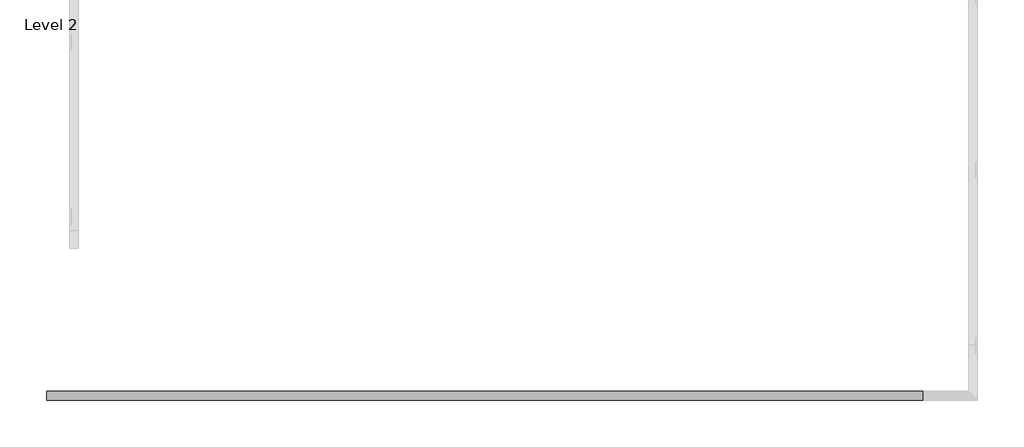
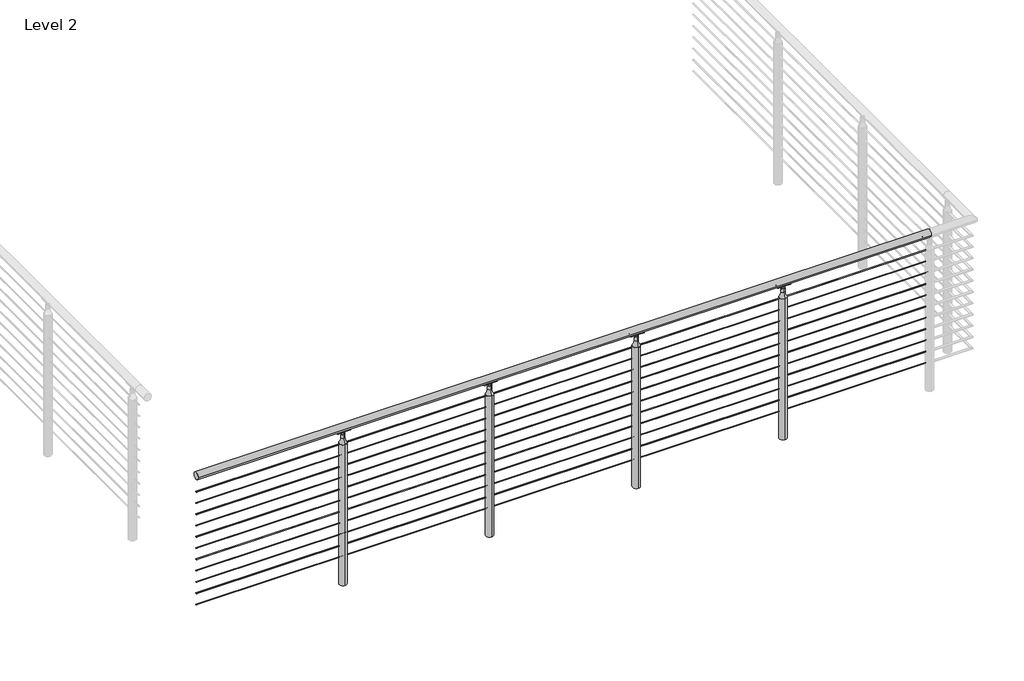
# One storey, part 14 of 21: 1 railing.
"""IFC4 building model written with IfcOpenShell, lengths in millimetres."""

from ifc_helpers import new_model, si_unit, point, frame, frame_2d, origin, place, context, project, spatial, polyline, circle_curve, ellipse_curve, trimmed, segment, composite_curve, outline, extrude, element, save
from ifc_brep_helpers import plane_surface, cylinder_surface, revolved_surface, advanced_brep

model = new_model("IFC4")

# Units and contexts
model_context = context("Model", 3, world=origin())
ifc_project = project(units=[si_unit("LENGTHUNIT", "METRE", prefix="MILLI")], contexts=[model_context])

# Site, building, storey
site = spatial("IfcSite", under=ifc_project)
building = spatial("IfcBuilding", under=site)
storey = spatial("IfcBuildingStorey", under=building, Name="Level 2", Elevation=3048.0)

# Railing
placement = place(None, origin())
element("IfcRailing", 1, ObjectType="VIVA-CIRCA-Cable-Weld Mount-Straight", at=placement, inside=storey, context=model_context, shape_type="SolidModel", body=[
    extrude(outline(composite_curve([segment(trimmed(circle_curve(frame_2d((-52219.0426165, 4102.1)), 25.4), [point((-52244.4426165, 4102.1))], [point((-52193.6426165, 4102.1))], False, "CARTESIAN"), True, "CONTINUOUS"), segment(trimmed(circle_curve(frame_2d((-52219.0426165, 4102.1)), 25.4), [point((-52193.6426165, 4102.1))], [point((-52244.4426165, 4102.1))], False, "CARTESIAN"), True, "CONTINUOUS")], self_intersect=False)), frame((41046.2072927, 0.0, 0.0), z_axis=(1.0, 0.0, 0.0), x_axis=(0.0, 1.0, 0.0)), (0.0, 0.0, 1.0), 5080.0),
    extrude(outline(composite_curve([segment(trimmed(circle_curve(frame_2d((-52219.0426165, 3985.4124)), 2.3876), [point((-52216.6550165, 3985.4124))], [point((-52221.4302165, 3985.4124))], False, "CARTESIAN"), True, "CONTINUOUS"), segment(trimmed(circle_curve(frame_2d((-52219.0426165, 3985.4124)), 2.3876), [point((-52221.4302165, 3985.4124))], [point((-52216.6550165, 3985.4124))], False, "CARTESIAN"), True, "CONTINUOUS")], self_intersect=False)), frame((41046.2072927, 0.0, 0.0), z_axis=(1.0, 0.0, 0.0), x_axis=(0.0, 1.0, 0.0)), (0.0, 0.0, 1.0), 5080.0),
    extrude(outline(composite_curve([segment(trimmed(circle_curve(frame_2d((-52219.0426165, 3902.8624)), 2.3876), [point((-52216.6550165, 3902.8624))], [point((-52221.4302165, 3902.8624))], False, "CARTESIAN"), True, "CONTINUOUS"), segment(trimmed(circle_curve(frame_2d((-52219.0426165, 3902.8624)), 2.3876), [point((-52221.4302165, 3902.8624))], [point((-52216.6550165, 3902.8624))], False, "CARTESIAN"), True, "CONTINUOUS")], self_intersect=False)), frame((41046.2072927, 0.0, 0.0), z_axis=(1.0, 0.0, 0.0), x_axis=(0.0, 1.0, 0.0)), (0.0, 0.0, 1.0), 5080.0),
    extrude(outline(composite_curve([segment(trimmed(circle_curve(frame_2d((-52219.0426165, 3820.3124)), 2.3876), [point((-52216.6550165, 3820.3124))], [point((-52221.4302165, 3820.3124))], False, "CARTESIAN"), True, "CONTINUOUS"), segment(trimmed(circle_curve(frame_2d((-52219.0426165, 3820.3124)), 2.3876), [point((-52221.4302165, 3820.3124))], [point((-52216.6550165, 3820.3124))], False, "CARTESIAN"), True, "CONTINUOUS")], self_intersect=False)), frame((41046.2072927, 0.0, 0.0), z_axis=(1.0, 0.0, 0.0), x_axis=(0.0, 1.0, 0.0)), (0.0, 0.0, 1.0), 5080.0),
    extrude(outline(composite_curve([segment(trimmed(circle_curve(frame_2d((-52219.0426165, 3737.7624)), 2.3876), [point((-52216.6550165, 3737.7624))], [point((-52221.4302165, 3737.7624))], False, "CARTESIAN"), True, "CONTINUOUS"), segment(trimmed(circle_curve(frame_2d((-52219.0426165, 3737.7624)), 2.3876), [point((-52221.4302165, 3737.7624))], [point((-52216.6550165, 3737.7624))], False, "CARTESIAN"), True, "CONTINUOUS")], self_intersect=False)), frame((41046.2072927, 0.0, 0.0), z_axis=(1.0, 0.0, 0.0), x_axis=(0.0, 1.0, 0.0)), (0.0, 0.0, 1.0), 5080.0),
    extrude(outline(composite_curve([segment(trimmed(circle_curve(frame_2d((-52219.0426165, 3655.2124)), 2.3876), [point((-52216.6550165, 3655.2124))], [point((-52221.4302165, 3655.2124))], False, "CARTESIAN"), True, "CONTINUOUS"), segment(trimmed(circle_curve(frame_2d((-52219.0426165, 3655.2124)), 2.3876), [point((-52221.4302165, 3655.2124))], [point((-52216.6550165, 3655.2124))], False, "CARTESIAN"), True, "CONTINUOUS")], self_intersect=False)), frame((41046.2072927, 0.0, 0.0), z_axis=(1.0, 0.0, 0.0), x_axis=(0.0, 1.0, 0.0)), (0.0, 0.0, 1.0), 5080.0),
    extrude(outline(composite_curve([segment(trimmed(circle_curve(frame_2d((-52219.0426165, 3572.6624)), 2.3876), [point((-52216.6550165, 3572.6624))], [point((-52221.4302165, 3572.6624))], False, "CARTESIAN"), True, "CONTINUOUS"), segment(trimmed(circle_curve(frame_2d((-52219.0426165, 3572.6624)), 2.3876), [point((-52221.4302165, 3572.6624))], [point((-52216.6550165, 3572.6624))], False, "CARTESIAN"), True, "CONTINUOUS")], self_intersect=False)), frame((41046.2072927, 0.0, 0.0), z_axis=(1.0, 0.0, 0.0), x_axis=(0.0, 1.0, 0.0)), (0.0, 0.0, 1.0), 5080.0),
    extrude(outline(composite_curve([segment(trimmed(circle_curve(frame_2d((-52219.0426165, 3490.1124)), 2.3876), [point((-52216.6550165, 3490.1124))], [point((-52221.4302165, 3490.1124))], False, "CARTESIAN"), True, "CONTINUOUS"), segment(trimmed(circle_curve(frame_2d((-52219.0426165, 3490.1124)), 2.3876), [point((-52221.4302165, 3490.1124))], [point((-52216.6550165, 3490.1124))], False, "CARTESIAN"), True, "CONTINUOUS")], self_intersect=False)), frame((41046.2072927, 0.0, 0.0), z_axis=(1.0, 0.0, 0.0), x_axis=(0.0, 1.0, 0.0)), (0.0, 0.0, 1.0), 5080.0),
    extrude(outline(composite_curve([segment(trimmed(circle_curve(frame_2d((-52219.0426165, 3407.5624)), 2.3876), [point((-52216.6550165, 3407.5624))], [point((-52221.4302165, 3407.5624))], False, "CARTESIAN"), True, "CONTINUOUS"), segment(trimmed(circle_curve(frame_2d((-52219.0426165, 3407.5624)), 2.3876), [point((-52221.4302165, 3407.5624))], [point((-52216.6550165, 3407.5624))], False, "CARTESIAN"), True, "CONTINUOUS")], self_intersect=False)), frame((41046.2072927, 0.0, 0.0), z_axis=(1.0, 0.0, 0.0), x_axis=(0.0, 1.0, 0.0)), (0.0, 0.0, 1.0), 5080.0),
    extrude(outline(composite_curve([segment(trimmed(circle_curve(frame_2d((-52219.0426165, 3325.0124)), 2.3876), [point((-52216.6550165, 3325.0124))], [point((-52221.4302165, 3325.0124))], False, "CARTESIAN"), True, "CONTINUOUS"), segment(trimmed(circle_curve(frame_2d((-52219.0426165, 3325.0124)), 2.3876), [point((-52221.4302165, 3325.0124))], [point((-52216.6550165, 3325.0124))], False, "CARTESIAN"), True, "CONTINUOUS")], self_intersect=False)), frame((41046.2072927, 0.0, 0.0), z_axis=(1.0, 0.0, 0.0), x_axis=(0.0, 1.0, 0.0)), (0.0, 0.0, 1.0), 5080.0),
    extrude(outline(composite_curve([segment(trimmed(circle_curve(frame_2d((-52219.0426165, 3242.4624)), 2.3876), [point((-52216.6550165, 3242.4624))], [point((-52221.4302165, 3242.4624))], False, "CARTESIAN"), True, "CONTINUOUS"), segment(trimmed(circle_curve(frame_2d((-52219.0426165, 3242.4624)), 2.3876), [point((-52221.4302165, 3242.4624))], [point((-52216.6550165, 3242.4624))], False, "CARTESIAN"), True, "CONTINUOUS")], self_intersect=False)), frame((41046.2072927, 0.0, 0.0), z_axis=(1.0, 0.0, 0.0), x_axis=(0.0, 1.0, 0.0)), (0.0, 0.0, 1.0), 5080.0),
    extrude(outline(composite_curve([segment(trimmed(circle_curve(frame_2d((-52219.0426165, 3159.9124)), 2.3876), [point((-52216.6550165, 3159.9124))], [point((-52221.4302165, 3159.9124))], False, "CARTESIAN"), True, "CONTINUOUS"), segment(trimmed(circle_curve(frame_2d((-52219.0426165, 3159.9124)), 2.3876), [point((-52221.4302165, 3159.9124))], [point((-52216.6550165, 3159.9124))], False, "CARTESIAN"), True, "CONTINUOUS")], self_intersect=False)), frame((41046.2072927, 0.0, 0.0), z_axis=(1.0, 0.0, 0.0), x_axis=(0.0, 1.0, 0.0)), (0.0, 0.0, 1.0), 5080.0),
    extrude(outline(composite_curve([segment(trimmed(circle_curve(frame_2d((-52218.9458882, 4103.4254922)), 25.4345159), [point((-52231.5096911, 4081.3106679))], [point((-52206.5506544, 4081.2157471))], True, "CARTESIAN"), True, "CONTINUOUS"), segment(trimmed(circle_curve(frame_2d((-52205.3060013, 4078.7132623)), 2.7949225), [point((-52206.5506544, 4081.2157471))], [point((-52203.8286962, 4076.3406769))], False, "CARTESIAN"), True, "CONTINUOUS"), segment(trimmed(circle_curve(frame_2d((-52219.0793513, 4104.1881188)), 31.75), [point((-52203.8286962, 4076.3406769))], [point((-52235.3455885, 4076.9214354))], False, "CARTESIAN"), True, "CONTINUOUS"), segment(trimmed(circle_curve(frame_2d((-52233.0572487, 4078.7923545)), 2.9558141), [point((-52235.3455885, 4076.9214354))], [point((-52231.5096911, 4081.3106679))], False, "CARTESIAN"), True, "CONTINUOUS")], self_intersect=False)), frame((45065.3667677, 0.0, 0.0), z_axis=(1.0, 0.0, 0.0), x_axis=(0.0, 1.0, 0.0)), (0.0, 0.0, 1.0), 90.4748),
    advanced_brep(
    [(45137.6720826, -52216.5026165, 4072.6506908), (45123.3041677, -52216.5026165, 4058.282776), (45097.9041677, -52216.5026165, 4058.282776), (45083.5362528, -52216.5026165, 4072.6506908), (45137.6720826, -52221.5826165, 4072.6506908), (45083.5362528, -52221.5826165, 4072.6506908), (45097.9041677, -52221.5826165, 4058.282776), (45123.3041677, -52221.5826165, 4058.282776)],
    [
        (0, 1, circle_curve(frame((45137.6720826, -52216.5026165, 4058.282776), z_axis=(0.0, -1.0, 0.0), x_axis=(-1.0, 0.0, 0.0)), 14.3679149)),
        (1, 2, circle_curve(frame((45110.6041677, -52216.5026165, 4058.282776), z_axis=(0.0, 1.0, 0.0), x_axis=(-1.0, 0.0, 0.0)), 12.7)),
        (2, 3, circle_curve(frame((45083.5362528, -52216.5026165, 4058.282776), z_axis=(0.0, -1.0, 0.0), x_axis=(-1.0, 0.0, 0.0)), 14.3679149)),
        (3, 0),
        (4, 5),
        (5, 6, circle_curve(frame((45083.5362528, -52221.5826165, 4058.282776), z_axis=(0.0, 1.0, 0.0), x_axis=(-1.0, 0.0, 0.0)), 14.3679149)),
        (6, 7, circle_curve(frame((45110.6041677, -52221.5826165, 4058.282776), z_axis=(0.0, -1.0, 0.0), x_axis=(-1.0, 0.0, 0.0)), 12.7)),
        (7, 4, circle_curve(frame((45137.6720826, -52221.5826165, 4058.282776), z_axis=(0.0, 1.0, 0.0), x_axis=(-1.0, 0.0, 0.0)), 14.3679149)),
        (0, 4),
        (7, 1),
        (6, 2),
        (5, 3),
    ],
    [
        plane_surface(frame((45123.3041677, -52216.5026165, 4058.282776), z_axis=(0.0, 1.0, 0.0), x_axis=(0.0, 0.0, -1.0))),
        plane_surface(frame((45123.3041677, -52221.5826165, 4058.282776), z_axis=(0.0, -1.0, 0.0), x_axis=(0.0, 0.0, 1.0))),
        revolved_surface(polyline([(45123.3041677, -52221.5826165, 4058.282776), (45123.3041677, -52216.5026165, 4058.282776)]), (45137.6720826, -52221.5826165, 4058.282776), (0.0, -1.0, 0.0)),
        cylinder_surface(frame((45110.6041677, -52221.5826165, 4058.282776), z_axis=(0.0, 1.0, 0.0), x_axis=(-1.0, 0.0, 0.0)), 12.7),
        revolved_surface(polyline([(45069.168337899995, -52221.5826165, 4058.282776), (45069.168337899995, -52216.5026165, 4058.282776)]), (45083.5362528, -52221.5826165, 4058.282776), (0.0, -1.0, 0.0)),
        plane_surface(frame((45083.5362528, -52216.5026165, 4072.6506908), z_axis=(0.0, 0.0, 1.0), x_axis=(0.0, -1.0, 0.0))),
    ],
    [
        (0, [[1, 2, 3, 4]]),
        (1, [[5, 6, 7, 8]]),
        (2, [[-1, 9, -8, 10]]),
        (3, [[-2, -10, -7, 11]]),
        (4, [[-3, -11, -6, 12]]),
        (5, [[-4, -12, -5, -9]]),
    ],
),
    advanced_brep(
    [(45110.6041677, -52244.4420143, 3989.1347854), (45110.6041677, -52193.6432187, 3989.1347854), (45110.6041677, -52193.6432187, 2959.1), (45110.6041677, -52244.4420143, 2959.1), (45110.6041677, -52231.7805851, 4027.3486202), (45110.6041677, -52206.304648, 4027.3486202), (45110.6041677, -52231.7805851, 4056.5779599), (45110.6041677, -52206.304648, 4056.5779599), (45110.6041677, -52219.0426165, 4063.238668), (45110.6041677, -52219.0426165, 2959.1)],
    [
        (0, 1, circle_curve(frame((45110.6041677, -52219.0426165, 3989.1347854), z_axis=(0.0, 0.0, -1.0), x_axis=(0.0, 1.0, 0.0)), 25.3993978)),
        (1, 2),
        (2, 3, circle_curve(frame((45110.6041677, -52219.0426165, 2959.1), z_axis=(0.0, 0.0, 1.0), x_axis=(0.0, 1.0, 0.0)), 25.3993978)),
        (3, 0),
        (1, 0, circle_curve(frame((45110.6041677, -52219.0426165, 3989.1347854), z_axis=(0.0, 0.0, -1.0), x_axis=(0.0, 1.0, 0.0)), 25.3993978)),
        (3, 2, circle_curve(frame((45110.6041677, -52219.0426165, 2959.1), z_axis=(0.0, 0.0, 1.0), x_axis=(0.0, 1.0, 0.0)), 25.3993978)),
        (4, 5, circle_curve(frame((45110.6041677, -52219.0426165, 4027.3486202), z_axis=(0.0, 0.0, -1.0), x_axis=(0.0, 1.0, 0.0)), 12.7379685)),
        (5, 1, circle_curve(frame((45110.6041677, -52142.3067797, 4027.3486202), z_axis=(1.0, 0.0, 0.0), x_axis=(0.0, 1.0, 0.0)), 63.9978683)),
        (0, 4, circle_curve(frame((45110.6041677, -52295.7784534, 4027.3486202), z_axis=(1.0, 0.0, 0.0), x_axis=(0.0, -1.0, 0.0)), 63.9978683)),
        (5, 4, circle_curve(frame((45110.6041677, -52219.0426165, 4027.3486202), z_axis=(0.0, 0.0, -1.0), x_axis=(0.0, 1.0, 0.0)), 12.7379685)),
        (6, 7, circle_curve(frame((45110.6041677, -52219.0426165, 4056.5779599), z_axis=(0.0, 0.0, -1.0), x_axis=(0.0, 1.0, 0.0)), 12.7379685)),
        (7, 5),
        (4, 6),
        (7, 6, circle_curve(frame((45110.6041677, -52219.0426165, 4056.5779599), z_axis=(0.0, 0.0, -1.0), x_axis=(0.0, 1.0, 0.0)), 12.7379685)),
        (8, 7, circle_curve(frame((45110.6041677, -52219.0426165, 4047.7282394), z_axis=(-1.0, 0.0, 0.0), x_axis=(0.0, 1.0, 0.0)), 15.5104286)),
        (6, 8, circle_curve(frame((45110.6041677, -52219.0426165, 4047.7282394), z_axis=(-1.0, 0.0, 0.0), x_axis=(0.0, -1.0, 0.0)), 15.5104286)),
        (2, 9),
        (9, 3),
    ],
    [
        cylinder_surface(frame((45110.6041677, -52219.0426165, 4152.9), z_axis=(0.0, 0.0, 1.0), x_axis=(0.0, 1.0, 0.0)), 25.3993978),
        revolved_surface(trimmed(ellipse_curve(frame((45110.6041677, -52142.3067797, 4027.3486202), z_axis=(-1.0, 0.0, 0.0), x_axis=(0.0, 1.0, 0.0)), 63.9978683, 63.9978683), [point((45110.6041677, -52193.6432187, 3989.1347854))], [point((45110.6041677, -52206.304648, 4027.3486202))], True, "CARTESIAN"), (45110.6041677, -52219.0426165, 4152.9), (0.0, 0.0, 1.0)),
        cylinder_surface(frame((45110.6041677, -52219.0426165, 4152.9), z_axis=(0.0, 0.0, 1.0), x_axis=(0.0, 1.0, 0.0)), 12.7379685),
        revolved_surface(trimmed(ellipse_curve(frame((45110.6041677, -52219.0426165, 4047.7282394), z_axis=(1.0, 0.0, 0.0), x_axis=(0.0, 1.0, 0.0)), 15.5104286, 15.5104286), [point((45110.6041677, -52206.304648, 4056.5779599))], [point((45110.6041677, -52219.0426165, 4063.238668))], True, "CARTESIAN"), (45110.6041677, -52219.0426165, 4152.9), (0.0, 0.0, 1.0)),
        plane_surface(frame((45110.6041677, -52219.0426165, 2959.1), z_axis=(0.0, 0.0, -1.0), x_axis=(0.0, 1.0, 0.0))),
    ],
    [
        (0, [[1, 2, 3, 4]]),
        (0, [[5, -4, 6, -2]]),
        (1, [[7, 8, -1, 9]]),
        (1, [[10, -9, -5, -8]]),
        (2, [[11, 12, -7, 13]]),
        (2, [[14, -13, -10, -12]]),
        (3, [[15, -11, 16]]),
        (3, [[-16, -14, -15]]),
        (4, [[-3, 17, 18]]),
        (4, [[-6, -18, -17]]),
    ],
),
    extrude(outline(composite_curve([segment(trimmed(circle_curve(frame_2d((-52218.9458882, 4103.4254922)), 25.4345159), [point((-52231.5096911, 4081.3106679))], [point((-52206.5506544, 4081.2157471))], True, "CARTESIAN"), True, "CONTINUOUS"), segment(trimmed(circle_curve(frame_2d((-52205.3060013, 4078.7132623)), 2.7949225), [point((-52206.5506544, 4081.2157471))], [point((-52203.8286962, 4076.3406769))], False, "CARTESIAN"), True, "CONTINUOUS"), segment(trimmed(circle_curve(frame_2d((-52219.0793513, 4104.1881188)), 31.75), [point((-52203.8286962, 4076.3406769))], [point((-52235.3455885, 4076.9214354))], False, "CARTESIAN"), True, "CONTINUOUS"), segment(trimmed(circle_curve(frame_2d((-52233.0572487, 4078.7923545)), 2.9558141), [point((-52235.3455885, 4076.9214354))], [point((-52231.5096911, 4081.3106679))], False, "CARTESIAN"), True, "CONTINUOUS")], self_intersect=False)), frame((44049.3667677, 0.0, 0.0), z_axis=(1.0, 0.0, 0.0), x_axis=(0.0, 1.0, 0.0)), (0.0, 0.0, 1.0), 90.4748),
    advanced_brep(
    [(44121.6720826, -52216.5026165, 4072.6506908), (44107.3041677, -52216.5026165, 4058.282776), (44081.9041677, -52216.5026165, 4058.282776), (44067.5362528, -52216.5026165, 4072.6506908), (44121.6720826, -52221.5826165, 4072.6506908), (44067.5362528, -52221.5826165, 4072.6506908), (44081.9041677, -52221.5826165, 4058.282776), (44107.3041677, -52221.5826165, 4058.282776)],
    [
        (0, 1, circle_curve(frame((44121.6720826, -52216.5026165, 4058.282776), z_axis=(0.0, -1.0, 0.0), x_axis=(-1.0, 0.0, 0.0)), 14.3679149)),
        (1, 2, circle_curve(frame((44094.6041677, -52216.5026165, 4058.282776), z_axis=(0.0, 1.0, 0.0), x_axis=(-1.0, 0.0, 0.0)), 12.7)),
        (2, 3, circle_curve(frame((44067.5362528, -52216.5026165, 4058.282776), z_axis=(0.0, -1.0, 0.0), x_axis=(-1.0, 0.0, 0.0)), 14.3679149)),
        (3, 0),
        (4, 5),
        (5, 6, circle_curve(frame((44067.5362528, -52221.5826165, 4058.282776), z_axis=(0.0, 1.0, 0.0), x_axis=(-1.0, 0.0, 0.0)), 14.3679149)),
        (6, 7, circle_curve(frame((44094.6041677, -52221.5826165, 4058.282776), z_axis=(0.0, -1.0, 0.0), x_axis=(-1.0, 0.0, 0.0)), 12.7)),
        (7, 4, circle_curve(frame((44121.6720826, -52221.5826165, 4058.282776), z_axis=(0.0, 1.0, 0.0), x_axis=(-1.0, 0.0, 0.0)), 14.3679149)),
        (0, 4),
        (7, 1),
        (6, 2),
        (5, 3),
    ],
    [
        plane_surface(frame((44107.3041677, -52216.5026165, 4058.282776), z_axis=(0.0, 1.0, 0.0), x_axis=(0.0, 0.0, -1.0))),
        plane_surface(frame((44107.3041677, -52221.5826165, 4058.282776), z_axis=(0.0, -1.0, 0.0), x_axis=(0.0, 0.0, 1.0))),
        revolved_surface(polyline([(44107.3041677, -52221.5826165, 4058.282776), (44107.3041677, -52216.5026165, 4058.282776)]), (44121.6720826, -52221.5826165, 4058.282776), (0.0, -1.0, 0.0)),
        cylinder_surface(frame((44094.6041677, -52221.5826165, 4058.282776), z_axis=(0.0, 1.0, 0.0), x_axis=(-1.0, 0.0, 0.0)), 12.7),
        revolved_surface(polyline([(44053.168337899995, -52221.5826165, 4058.282776), (44053.168337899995, -52216.5026165, 4058.282776)]), (44067.5362528, -52221.5826165, 4058.282776), (0.0, -1.0, 0.0)),
        plane_surface(frame((44067.5362528, -52216.5026165, 4072.6506908), z_axis=(0.0, 0.0, 1.0), x_axis=(0.0, -1.0, 0.0))),
    ],
    [
        (0, [[1, 2, 3, 4]]),
        (1, [[5, 6, 7, 8]]),
        (2, [[-1, 9, -8, 10]]),
        (3, [[-2, -10, -7, 11]]),
        (4, [[-3, -11, -6, 12]]),
        (5, [[-4, -12, -5, -9]]),
    ],
),
    advanced_brep(
    [(44094.6041677, -52244.4420143, 3989.1347854), (44094.6041677, -52193.6432187, 3989.1347854), (44094.6041677, -52193.6432187, 2959.1), (44094.6041677, -52244.4420143, 2959.1), (44094.6041677, -52231.7805851, 4027.3486202), (44094.6041677, -52206.304648, 4027.3486202), (44094.6041677, -52231.7805851, 4056.5779599), (44094.6041677, -52206.304648, 4056.5779599), (44094.6041677, -52219.0426165, 4063.238668), (44094.6041677, -52219.0426165, 2959.1)],
    [
        (0, 1, circle_curve(frame((44094.6041677, -52219.0426165, 3989.1347854), z_axis=(0.0, 0.0, -1.0), x_axis=(0.0, 1.0, 0.0)), 25.3993978)),
        (1, 2),
        (2, 3, circle_curve(frame((44094.6041677, -52219.0426165, 2959.1), z_axis=(0.0, 0.0, 1.0), x_axis=(0.0, 1.0, 0.0)), 25.3993978)),
        (3, 0),
        (1, 0, circle_curve(frame((44094.6041677, -52219.0426165, 3989.1347854), z_axis=(0.0, 0.0, -1.0), x_axis=(0.0, 1.0, 0.0)), 25.3993978)),
        (3, 2, circle_curve(frame((44094.6041677, -52219.0426165, 2959.1), z_axis=(0.0, 0.0, 1.0), x_axis=(0.0, 1.0, 0.0)), 25.3993978)),
        (4, 5, circle_curve(frame((44094.6041677, -52219.0426165, 4027.3486202), z_axis=(0.0, 0.0, -1.0), x_axis=(0.0, 1.0, 0.0)), 12.7379685)),
        (5, 1, circle_curve(frame((44094.6041677, -52142.3067797, 4027.3486202), z_axis=(1.0, 0.0, 0.0), x_axis=(0.0, 1.0, 0.0)), 63.9978683)),
        (0, 4, circle_curve(frame((44094.6041677, -52295.7784534, 4027.3486202), z_axis=(1.0, 0.0, 0.0), x_axis=(0.0, -1.0, 0.0)), 63.9978683)),
        (5, 4, circle_curve(frame((44094.6041677, -52219.0426165, 4027.3486202), z_axis=(0.0, 0.0, -1.0), x_axis=(0.0, 1.0, 0.0)), 12.7379685)),
        (6, 7, circle_curve(frame((44094.6041677, -52219.0426165, 4056.5779599), z_axis=(0.0, 0.0, -1.0), x_axis=(0.0, 1.0, 0.0)), 12.7379685)),
        (7, 5),
        (4, 6),
        (7, 6, circle_curve(frame((44094.6041677, -52219.0426165, 4056.5779599), z_axis=(0.0, 0.0, -1.0), x_axis=(0.0, 1.0, 0.0)), 12.7379685)),
        (8, 7, circle_curve(frame((44094.6041677, -52219.0426165, 4047.7282394), z_axis=(-1.0, 0.0, 0.0), x_axis=(0.0, 1.0, 0.0)), 15.5104286)),
        (6, 8, circle_curve(frame((44094.6041677, -52219.0426165, 4047.7282394), z_axis=(-1.0, 0.0, 0.0), x_axis=(0.0, -1.0, 0.0)), 15.5104286)),
        (2, 9),
        (9, 3),
    ],
    [
        cylinder_surface(frame((44094.6041677, -52219.0426165, 4152.9), z_axis=(0.0, 0.0, 1.0), x_axis=(0.0, 1.0, 0.0)), 25.3993978),
        revolved_surface(trimmed(ellipse_curve(frame((44094.6041677, -52142.3067797, 4027.3486202), z_axis=(-1.0, 0.0, 0.0), x_axis=(0.0, 1.0, 0.0)), 63.9978683, 63.9978683), [point((44094.6041677, -52193.6432187, 3989.1347854))], [point((44094.6041677, -52206.304648, 4027.3486202))], True, "CARTESIAN"), (44094.6041677, -52219.0426165, 4152.9), (0.0, 0.0, 1.0)),
        cylinder_surface(frame((44094.6041677, -52219.0426165, 4152.9), z_axis=(0.0, 0.0, 1.0), x_axis=(0.0, 1.0, 0.0)), 12.7379685),
        revolved_surface(trimmed(ellipse_curve(frame((44094.6041677, -52219.0426165, 4047.7282394), z_axis=(1.0, 0.0, 0.0), x_axis=(0.0, 1.0, 0.0)), 15.5104286, 15.5104286), [point((44094.6041677, -52206.304648, 4056.5779599))], [point((44094.6041677, -52219.0426165, 4063.238668))], True, "CARTESIAN"), (44094.6041677, -52219.0426165, 4152.9), (0.0, 0.0, 1.0)),
        plane_surface(frame((44094.6041677, -52219.0426165, 2959.1), z_axis=(0.0, 0.0, -1.0), x_axis=(0.0, 1.0, 0.0))),
    ],
    [
        (0, [[1, 2, 3, 4]]),
        (0, [[5, -4, 6, -2]]),
        (1, [[7, 8, -1, 9]]),
        (1, [[10, -9, -5, -8]]),
        (2, [[11, 12, -7, 13]]),
        (2, [[14, -13, -10, -12]]),
        (3, [[15, -11, 16]]),
        (3, [[-16, -14, -15]]),
        (4, [[-3, 17, 18]]),
        (4, [[-6, -18, -17]]),
    ],
),
    extrude(outline(composite_curve([segment(trimmed(circle_curve(frame_2d((-52218.9458882, 4103.4254922)), 25.4345159), [point((-52231.5096911, 4081.3106679))], [point((-52206.5506544, 4081.2157471))], True, "CARTESIAN"), True, "CONTINUOUS"), segment(trimmed(circle_curve(frame_2d((-52205.3060013, 4078.7132623)), 2.7949225), [point((-52206.5506544, 4081.2157471))], [point((-52203.8286962, 4076.3406769))], False, "CARTESIAN"), True, "CONTINUOUS"), segment(trimmed(circle_curve(frame_2d((-52219.0793513, 4104.1881188)), 31.75), [point((-52203.8286962, 4076.3406769))], [point((-52235.3455885, 4076.9214354))], False, "CARTESIAN"), True, "CONTINUOUS"), segment(trimmed(circle_curve(frame_2d((-52233.0572487, 4078.7923545)), 2.9558141), [point((-52235.3455885, 4076.9214354))], [point((-52231.5096911, 4081.3106679))], False, "CARTESIAN"), True, "CONTINUOUS")], self_intersect=False)), frame((43033.3667677, 0.0, 0.0), z_axis=(1.0, 0.0, 0.0), x_axis=(0.0, 1.0, 0.0)), (0.0, 0.0, 1.0), 90.4748),
    advanced_brep(
    [(43105.6720826, -52216.5026165, 4072.6506908), (43091.3041677, -52216.5026165, 4058.282776), (43065.9041677, -52216.5026165, 4058.282776), (43051.5362528, -52216.5026165, 4072.6506908), (43105.6720826, -52221.5826165, 4072.6506908), (43051.5362528, -52221.5826165, 4072.6506908), (43065.9041677, -52221.5826165, 4058.282776), (43091.3041677, -52221.5826165, 4058.282776)],
    [
        (0, 1, circle_curve(frame((43105.6720826, -52216.5026165, 4058.282776), z_axis=(0.0, -1.0, 0.0), x_axis=(-1.0, 0.0, 0.0)), 14.3679149)),
        (1, 2, circle_curve(frame((43078.6041677, -52216.5026165, 4058.282776), z_axis=(0.0, 1.0, 0.0), x_axis=(-1.0, 0.0, 0.0)), 12.7)),
        (2, 3, circle_curve(frame((43051.5362528, -52216.5026165, 4058.282776), z_axis=(0.0, -1.0, 0.0), x_axis=(-1.0, 0.0, 0.0)), 14.3679149)),
        (3, 0),
        (4, 5),
        (5, 6, circle_curve(frame((43051.5362528, -52221.5826165, 4058.282776), z_axis=(0.0, 1.0, 0.0), x_axis=(-1.0, 0.0, 0.0)), 14.3679149)),
        (6, 7, circle_curve(frame((43078.6041677, -52221.5826165, 4058.282776), z_axis=(0.0, -1.0, 0.0), x_axis=(-1.0, 0.0, 0.0)), 12.7)),
        (7, 4, circle_curve(frame((43105.6720826, -52221.5826165, 4058.282776), z_axis=(0.0, 1.0, 0.0), x_axis=(-1.0, 0.0, 0.0)), 14.3679149)),
        (0, 4),
        (7, 1),
        (6, 2),
        (5, 3),
    ],
    [
        plane_surface(frame((43091.3041677, -52216.5026165, 4058.282776), z_axis=(0.0, 1.0, 0.0), x_axis=(0.0, 0.0, -1.0))),
        plane_surface(frame((43091.3041677, -52221.5826165, 4058.282776), z_axis=(0.0, -1.0, 0.0), x_axis=(0.0, 0.0, 1.0))),
        revolved_surface(polyline([(43091.3041677, -52221.5826165, 4058.282776), (43091.3041677, -52216.5026165, 4058.282776)]), (43105.6720826, -52221.5826165, 4058.282776), (0.0, -1.0, 0.0)),
        cylinder_surface(frame((43078.6041677, -52221.5826165, 4058.282776), z_axis=(0.0, 1.0, 0.0), x_axis=(-1.0, 0.0, 0.0)), 12.7),
        revolved_surface(polyline([(43037.168337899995, -52221.5826165, 4058.282776), (43037.168337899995, -52216.5026165, 4058.282776)]), (43051.5362528, -52221.5826165, 4058.282776), (0.0, -1.0, 0.0)),
        plane_surface(frame((43051.5362528, -52216.5026165, 4072.6506908), z_axis=(0.0, 0.0, 1.0), x_axis=(0.0, -1.0, 0.0))),
    ],
    [
        (0, [[1, 2, 3, 4]]),
        (1, [[5, 6, 7, 8]]),
        (2, [[-1, 9, -8, 10]]),
        (3, [[-2, -10, -7, 11]]),
        (4, [[-3, -11, -6, 12]]),
        (5, [[-4, -12, -5, -9]]),
    ],
),
    advanced_brep(
    [(43078.6041677, -52244.4420143, 3989.1347854), (43078.6041677, -52193.6432187, 3989.1347854), (43078.6041677, -52193.6432187, 2959.1), (43078.6041677, -52244.4420143, 2959.1), (43078.6041677, -52231.7805851, 4027.3486202), (43078.6041677, -52206.304648, 4027.3486202), (43078.6041677, -52231.7805851, 4056.5779599), (43078.6041677, -52206.304648, 4056.5779599), (43078.6041677, -52219.0426165, 4063.238668), (43078.6041677, -52219.0426165, 2959.1)],
    [
        (0, 1, circle_curve(frame((43078.6041677, -52219.0426165, 3989.1347854), z_axis=(0.0, 0.0, -1.0), x_axis=(0.0, 1.0, 0.0)), 25.3993978)),
        (1, 2),
        (2, 3, circle_curve(frame((43078.6041677, -52219.0426165, 2959.1), z_axis=(0.0, 0.0, 1.0), x_axis=(0.0, 1.0, 0.0)), 25.3993978)),
        (3, 0),
        (1, 0, circle_curve(frame((43078.6041677, -52219.0426165, 3989.1347854), z_axis=(0.0, 0.0, -1.0), x_axis=(0.0, 1.0, 0.0)), 25.3993978)),
        (3, 2, circle_curve(frame((43078.6041677, -52219.0426165, 2959.1), z_axis=(0.0, 0.0, 1.0), x_axis=(0.0, 1.0, 0.0)), 25.3993978)),
        (4, 5, circle_curve(frame((43078.6041677, -52219.0426165, 4027.3486202), z_axis=(0.0, 0.0, -1.0), x_axis=(0.0, 1.0, 0.0)), 12.7379685)),
        (5, 1, circle_curve(frame((43078.6041677, -52142.3067797, 4027.3486202), z_axis=(1.0, 0.0, 0.0), x_axis=(0.0, 1.0, 0.0)), 63.9978683)),
        (0, 4, circle_curve(frame((43078.6041677, -52295.7784534, 4027.3486202), z_axis=(1.0, 0.0, 0.0), x_axis=(0.0, -1.0, 0.0)), 63.9978683)),
        (5, 4, circle_curve(frame((43078.6041677, -52219.0426165, 4027.3486202), z_axis=(0.0, 0.0, -1.0), x_axis=(0.0, 1.0, 0.0)), 12.7379685)),
        (6, 7, circle_curve(frame((43078.6041677, -52219.0426165, 4056.5779599), z_axis=(0.0, 0.0, -1.0), x_axis=(0.0, 1.0, 0.0)), 12.7379685)),
        (7, 5),
        (4, 6),
        (7, 6, circle_curve(frame((43078.6041677, -52219.0426165, 4056.5779599), z_axis=(0.0, 0.0, -1.0), x_axis=(0.0, 1.0, 0.0)), 12.7379685)),
        (8, 7, circle_curve(frame((43078.6041677, -52219.0426165, 4047.7282394), z_axis=(-1.0, 0.0, 0.0), x_axis=(0.0, 1.0, 0.0)), 15.5104286)),
        (6, 8, circle_curve(frame((43078.6041677, -52219.0426165, 4047.7282394), z_axis=(-1.0, 0.0, 0.0), x_axis=(0.0, -1.0, 0.0)), 15.5104286)),
        (2, 9),
        (9, 3),
    ],
    [
        cylinder_surface(frame((43078.6041677, -52219.0426165, 4152.9), z_axis=(0.0, 0.0, 1.0), x_axis=(0.0, 1.0, 0.0)), 25.3993978),
        revolved_surface(trimmed(ellipse_curve(frame((43078.6041677, -52142.3067797, 4027.3486202), z_axis=(-1.0, 0.0, 0.0), x_axis=(0.0, 1.0, 0.0)), 63.9978683, 63.9978683), [point((43078.6041677, -52193.6432187, 3989.1347854))], [point((43078.6041677, -52206.304648, 4027.3486202))], True, "CARTESIAN"), (43078.6041677, -52219.0426165, 4152.9), (0.0, 0.0, 1.0)),
        cylinder_surface(frame((43078.6041677, -52219.0426165, 4152.9), z_axis=(0.0, 0.0, 1.0), x_axis=(0.0, 1.0, 0.0)), 12.7379685),
        revolved_surface(trimmed(ellipse_curve(frame((43078.6041677, -52219.0426165, 4047.7282394), z_axis=(1.0, 0.0, 0.0), x_axis=(0.0, 1.0, 0.0)), 15.5104286, 15.5104286), [point((43078.6041677, -52206.304648, 4056.5779599))], [point((43078.6041677, -52219.0426165, 4063.238668))], True, "CARTESIAN"), (43078.6041677, -52219.0426165, 4152.9), (0.0, 0.0, 1.0)),
        plane_surface(frame((43078.6041677, -52219.0426165, 2959.1), z_axis=(0.0, 0.0, -1.0), x_axis=(0.0, 1.0, 0.0))),
    ],
    [
        (0, [[1, 2, 3, 4]]),
        (0, [[5, -4, 6, -2]]),
        (1, [[7, 8, -1, 9]]),
        (1, [[10, -9, -5, -8]]),
        (2, [[11, 12, -7, 13]]),
        (2, [[14, -13, -10, -12]]),
        (3, [[15, -11, 16]]),
        (3, [[-16, -14, -15]]),
        (4, [[-3, 17, 18]]),
        (4, [[-6, -18, -17]]),
    ],
),
    extrude(outline(composite_curve([segment(trimmed(circle_curve(frame_2d((-52218.9458882, 4103.4254922)), 25.4345159), [point((-52231.5096911, 4081.3106679))], [point((-52206.5506544, 4081.2157471))], True, "CARTESIAN"), True, "CONTINUOUS"), segment(trimmed(circle_curve(frame_2d((-52205.3060013, 4078.7132623)), 2.7949225), [point((-52206.5506544, 4081.2157471))], [point((-52203.8286962, 4076.3406769))], False, "CARTESIAN"), True, "CONTINUOUS"), segment(trimmed(circle_curve(frame_2d((-52219.0793513, 4104.1881188)), 31.75), [point((-52203.8286962, 4076.3406769))], [point((-52235.3455885, 4076.9214354))], False, "CARTESIAN"), True, "CONTINUOUS"), segment(trimmed(circle_curve(frame_2d((-52233.0572487, 4078.7923545)), 2.9558141), [point((-52235.3455885, 4076.9214354))], [point((-52231.5096911, 4081.3106679))], False, "CARTESIAN"), True, "CONTINUOUS")], self_intersect=False)), frame((42017.3667677, 0.0, 0.0), z_axis=(1.0, 0.0, 0.0), x_axis=(0.0, 1.0, 0.0)), (0.0, 0.0, 1.0), 90.4748),
    advanced_brep(
    [(42089.6720826, -52216.5026165, 4072.6506908), (42075.3041677, -52216.5026165, 4058.282776), (42049.9041677, -52216.5026165, 4058.282776), (42035.5362528, -52216.5026165, 4072.6506908), (42089.6720826, -52221.5826165, 4072.6506908), (42035.5362528, -52221.5826165, 4072.6506908), (42049.9041677, -52221.5826165, 4058.282776), (42075.3041677, -52221.5826165, 4058.282776)],
    [
        (0, 1, circle_curve(frame((42089.6720826, -52216.5026165, 4058.282776), z_axis=(0.0, -1.0, 0.0), x_axis=(-1.0, 0.0, 0.0)), 14.3679149)),
        (1, 2, circle_curve(frame((42062.6041677, -52216.5026165, 4058.282776), z_axis=(0.0, 1.0, 0.0), x_axis=(-1.0, 0.0, 0.0)), 12.7)),
        (2, 3, circle_curve(frame((42035.5362528, -52216.5026165, 4058.282776), z_axis=(0.0, -1.0, 0.0), x_axis=(-1.0, 0.0, 0.0)), 14.3679149)),
        (3, 0),
        (4, 5),
        (5, 6, circle_curve(frame((42035.5362528, -52221.5826165, 4058.282776), z_axis=(0.0, 1.0, 0.0), x_axis=(-1.0, 0.0, 0.0)), 14.3679149)),
        (6, 7, circle_curve(frame((42062.6041677, -52221.5826165, 4058.282776), z_axis=(0.0, -1.0, 0.0), x_axis=(-1.0, 0.0, 0.0)), 12.7)),
        (7, 4, circle_curve(frame((42089.6720826, -52221.5826165, 4058.282776), z_axis=(0.0, 1.0, 0.0), x_axis=(-1.0, 0.0, 0.0)), 14.3679149)),
        (0, 4),
        (7, 1),
        (6, 2),
        (5, 3),
    ],
    [
        plane_surface(frame((42075.3041677, -52216.5026165, 4058.282776), z_axis=(0.0, 1.0, 0.0), x_axis=(0.0, 0.0, -1.0))),
        plane_surface(frame((42075.3041677, -52221.5826165, 4058.282776), z_axis=(0.0, -1.0, 0.0), x_axis=(0.0, 0.0, 1.0))),
        revolved_surface(polyline([(42075.3041677, -52221.5826165, 4058.282776), (42075.3041677, -52216.5026165, 4058.282776)]), (42089.6720826, -52221.5826165, 4058.282776), (0.0, -1.0, 0.0)),
        cylinder_surface(frame((42062.6041677, -52221.5826165, 4058.282776), z_axis=(0.0, 1.0, 0.0), x_axis=(-1.0, 0.0, 0.0)), 12.7),
        revolved_surface(polyline([(42021.168337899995, -52221.5826165, 4058.282776), (42021.168337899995, -52216.5026165, 4058.282776)]), (42035.5362528, -52221.5826165, 4058.282776), (0.0, -1.0, 0.0)),
        plane_surface(frame((42035.5362528, -52216.5026165, 4072.6506908), z_axis=(0.0, 0.0, 1.0), x_axis=(0.0, -1.0, 0.0))),
    ],
    [
        (0, [[1, 2, 3, 4]]),
        (1, [[5, 6, 7, 8]]),
        (2, [[-1, 9, -8, 10]]),
        (3, [[-2, -10, -7, 11]]),
        (4, [[-3, -11, -6, 12]]),
        (5, [[-4, -12, -5, -9]]),
    ],
),
    advanced_brep(
    [(42062.6041677, -52244.4420143, 3989.1347854), (42062.6041677, -52193.6432187, 3989.1347854), (42062.6041677, -52193.6432187, 2959.1), (42062.6041677, -52244.4420143, 2959.1), (42062.6041677, -52231.7805851, 4027.3486202), (42062.6041677, -52206.304648, 4027.3486202), (42062.6041677, -52231.7805851, 4056.5779599), (42062.6041677, -52206.304648, 4056.5779599), (42062.6041677, -52219.0426165, 4063.238668), (42062.6041677, -52219.0426165, 2959.1)],
    [
        (0, 1, circle_curve(frame((42062.6041677, -52219.0426165, 3989.1347854), z_axis=(0.0, 0.0, -1.0), x_axis=(0.0, 1.0, 0.0)), 25.3993978)),
        (1, 2),
        (2, 3, circle_curve(frame((42062.6041677, -52219.0426165, 2959.1), z_axis=(0.0, 0.0, 1.0), x_axis=(0.0, 1.0, 0.0)), 25.3993978)),
        (3, 0),
        (1, 0, circle_curve(frame((42062.6041677, -52219.0426165, 3989.1347854), z_axis=(0.0, 0.0, -1.0), x_axis=(0.0, 1.0, 0.0)), 25.3993978)),
        (3, 2, circle_curve(frame((42062.6041677, -52219.0426165, 2959.1), z_axis=(0.0, 0.0, 1.0), x_axis=(0.0, 1.0, 0.0)), 25.3993978)),
        (4, 5, circle_curve(frame((42062.6041677, -52219.0426165, 4027.3486202), z_axis=(0.0, 0.0, -1.0), x_axis=(0.0, 1.0, 0.0)), 12.7379685)),
        (5, 1, circle_curve(frame((42062.6041677, -52142.3067797, 4027.3486202), z_axis=(1.0, 0.0, 0.0), x_axis=(0.0, 1.0, 0.0)), 63.9978683)),
        (0, 4, circle_curve(frame((42062.6041677, -52295.7784534, 4027.3486202), z_axis=(1.0, 0.0, 0.0), x_axis=(0.0, -1.0, 0.0)), 63.9978683)),
        (5, 4, circle_curve(frame((42062.6041677, -52219.0426165, 4027.3486202), z_axis=(0.0, 0.0, -1.0), x_axis=(0.0, 1.0, 0.0)), 12.7379685)),
        (6, 7, circle_curve(frame((42062.6041677, -52219.0426165, 4056.5779599), z_axis=(0.0, 0.0, -1.0), x_axis=(0.0, 1.0, 0.0)), 12.7379685)),
        (7, 5),
        (4, 6),
        (7, 6, circle_curve(frame((42062.6041677, -52219.0426165, 4056.5779599), z_axis=(0.0, 0.0, -1.0), x_axis=(0.0, 1.0, 0.0)), 12.7379685)),
        (8, 7, circle_curve(frame((42062.6041677, -52219.0426165, 4047.7282394), z_axis=(-1.0, 0.0, 0.0), x_axis=(0.0, 1.0, 0.0)), 15.5104286)),
        (6, 8, circle_curve(frame((42062.6041677, -52219.0426165, 4047.7282394), z_axis=(-1.0, 0.0, 0.0), x_axis=(0.0, -1.0, 0.0)), 15.5104286)),
        (2, 9),
        (9, 3),
    ],
    [
        cylinder_surface(frame((42062.6041677, -52219.0426165, 4152.9), z_axis=(0.0, 0.0, 1.0), x_axis=(0.0, 1.0, 0.0)), 25.3993978),
        revolved_surface(trimmed(ellipse_curve(frame((42062.6041677, -52142.3067797, 4027.3486202), z_axis=(-1.0, 0.0, 0.0), x_axis=(0.0, 1.0, 0.0)), 63.9978683, 63.9978683), [point((42062.6041677, -52193.6432187, 3989.1347854))], [point((42062.6041677, -52206.304648, 4027.3486202))], True, "CARTESIAN"), (42062.6041677, -52219.0426165, 4152.9), (0.0, 0.0, 1.0)),
        cylinder_surface(frame((42062.6041677, -52219.0426165, 4152.9), z_axis=(0.0, 0.0, 1.0), x_axis=(0.0, 1.0, 0.0)), 12.7379685),
        revolved_surface(trimmed(ellipse_curve(frame((42062.6041677, -52219.0426165, 4047.7282394), z_axis=(1.0, 0.0, 0.0), x_axis=(0.0, 1.0, 0.0)), 15.5104286, 15.5104286), [point((42062.6041677, -52206.304648, 4056.5779599))], [point((42062.6041677, -52219.0426165, 4063.238668))], True, "CARTESIAN"), (42062.6041677, -52219.0426165, 4152.9), (0.0, 0.0, 1.0)),
        plane_surface(frame((42062.6041677, -52219.0426165, 2959.1), z_axis=(0.0, 0.0, -1.0), x_axis=(0.0, 1.0, 0.0))),
    ],
    [
        (0, [[1, 2, 3, 4]]),
        (0, [[5, -4, 6, -2]]),
        (1, [[7, 8, -1, 9]]),
        (1, [[10, -9, -5, -8]]),
        (2, [[11, 12, -7, 13]]),
        (2, [[14, -13, -10, -12]]),
        (3, [[15, -11, 16]]),
        (3, [[-16, -14, -15]]),
        (4, [[-3, 17, 18]]),
        (4, [[-6, -18, -17]]),
    ],
),
])

save(model, "model.ifc")
